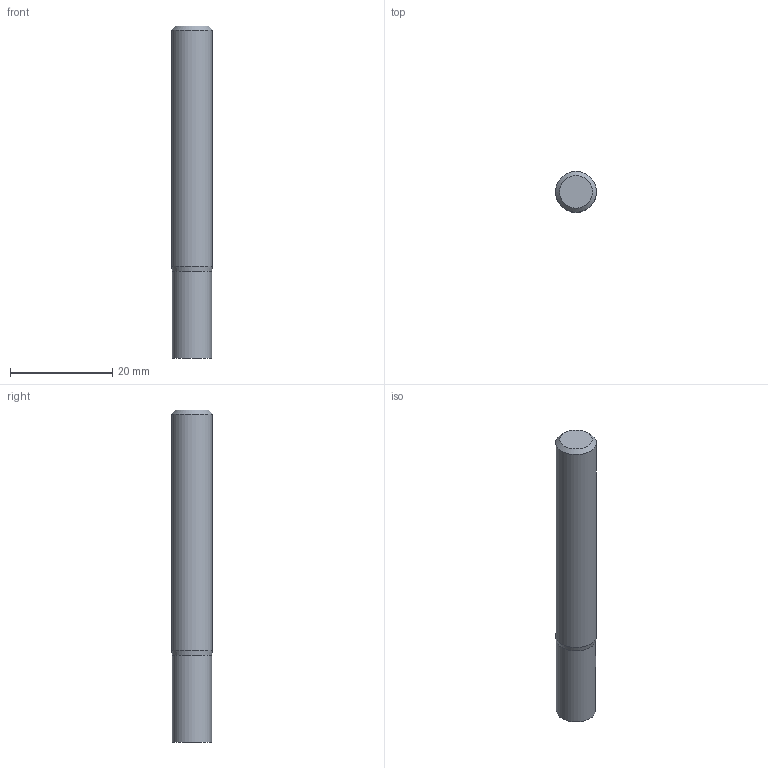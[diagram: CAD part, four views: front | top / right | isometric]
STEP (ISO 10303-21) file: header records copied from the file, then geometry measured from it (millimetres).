
FILE_DESCRIPTION((''),'2;1');
FILE_NAME('C:\Users\nsx150\AppData\Local\Temp\Mastercam 2021\98T1Q6BTT1\TEMP.step','2021-10-21T14:49:28',(''),(''),'STEP Write','Mastercam 2021 ... CNC Software, Inc.','');
FILE_SCHEMA(('AUTOMOTIVE_DESIGN'));
Length unit declared in the file: millimetre
Products named in the file (1): None
Bounding box: 8 x 8 x 65 mm (x, y, z)
Volume: 3195.1 mm3; surface area: 1794.8 mm2
Topology: 2 solids, 2 shells, 8 faces, 10 edges, 6 vertices
Faces by surface type: plane 4, cylinder 2, cone 2
Full cylindrical faces by diameter (mm): 7.7 x1, 8 x1
Entity records: 190 total; most frequent: DIRECTION 32, CARTESIAN_POINT 22, AXIS2_PLACEMENT_3D 16, ORIENTED_EDGE 12, EDGE_LOOP 12, STYLED_ITEM 11, ADVANCED_FACE 8, VERTEX_POINT 6
